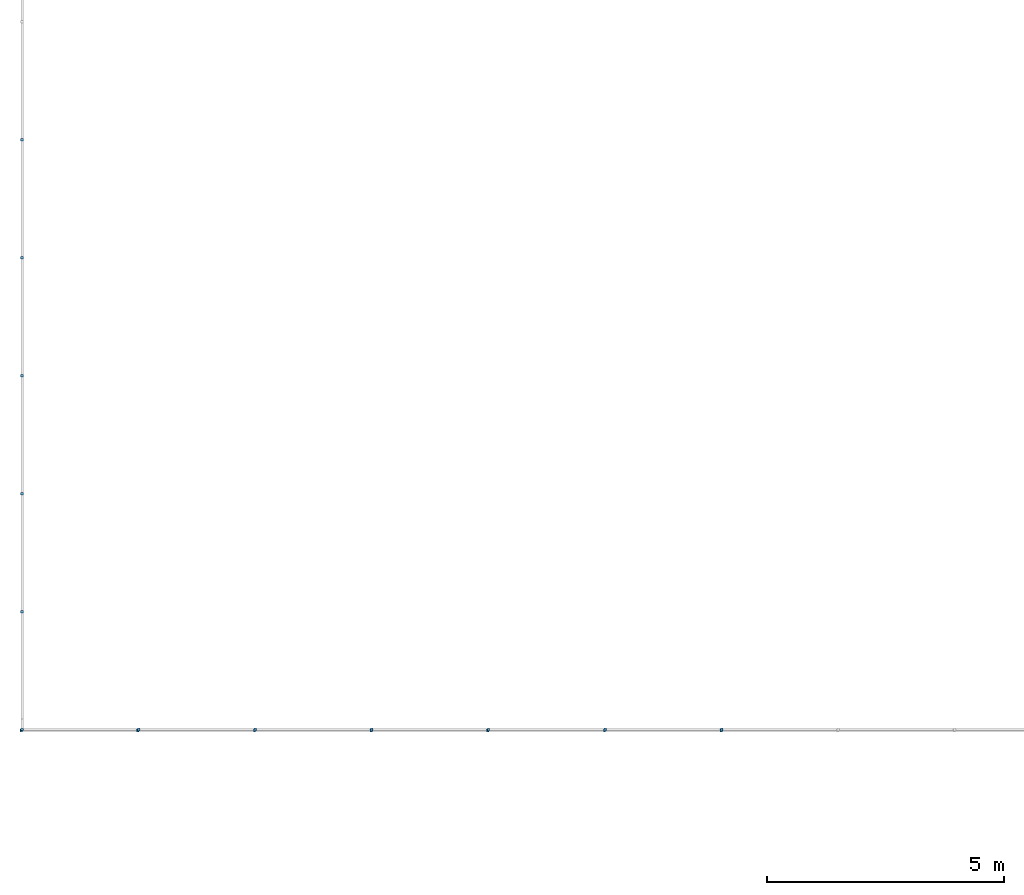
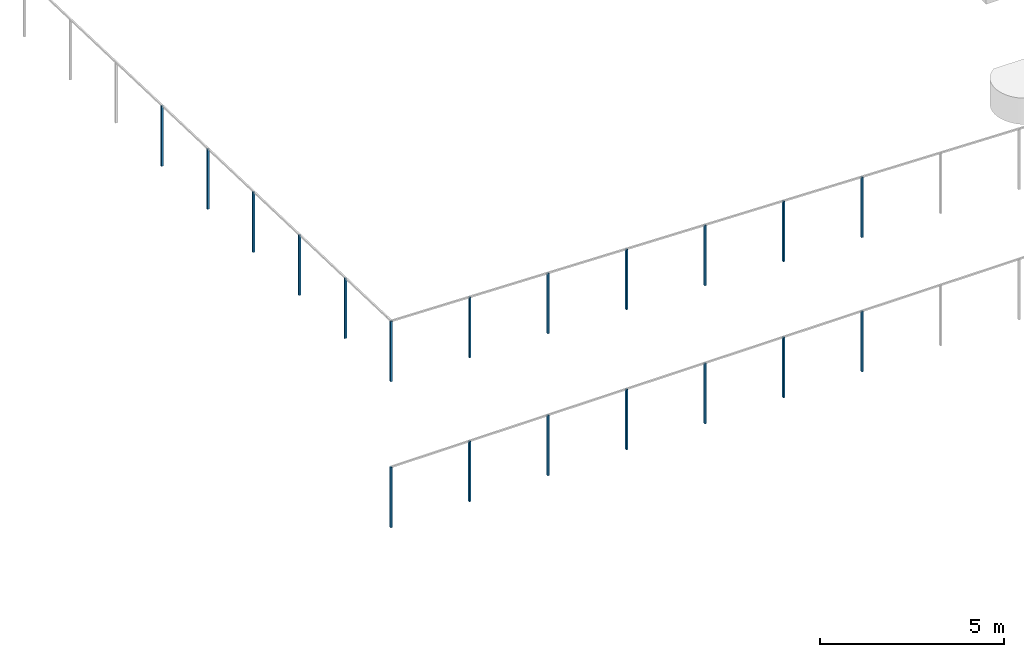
# One storey, part 45 of 91: 19 building element parts, 2 elements without a shape of their own.
"""IFC2X3 building model written with IfcOpenShell, lengths in metres."""

from ifc_helpers import new_model, entity, si_unit, converted_unit, derived_unit, money_unit, direction, frame, origin_with_axes, place, context, subcontext, project, spatial, faceted_brep, material, type_object, element, aggregate, save


model = new_model("IFC2X3")

# Units and contexts
model_context = context("Model", 3, precision=1e-05, world=origin_with_axes(), true_north=direction((0.0, 1.0)))
body_context = subcontext(model_context, "Body", "Model", "MODEL_VIEW")
ifc_project = project(units=[si_unit("LENGTHUNIT", "METRE"), si_unit("AREAUNIT", "SQUARE_METRE"), si_unit("VOLUMEUNIT", "CUBIC_METRE"), converted_unit("PLANEANGLEUNIT", "DEGREE", entity("IfcPlaneAngleMeasure", 0.0174532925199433), si_unit("PLANEANGLEUNIT", "RADIAN"), dimensions=[0, 0, 0, 0, 0, 0, 0]), money_unit("EUR"), converted_unit("TIMEUNIT", "Year", entity("IfcTimeMeasure", 31557600.0), si_unit("TIMEUNIT", "SECOND"), dimensions=[0, 0, 1, 0, 0, 0, 0]), si_unit("MASSUNIT", "GRAM", prefix="KILO"), si_unit("THERMODYNAMICTEMPERATUREUNIT", "DEGREE_CELSIUS"), si_unit("LUMINOUSINTENSITYUNIT", "LUMEN"), si_unit("ENERGYUNIT", "JOULE", prefix="MEGA"), derived_unit("THERMALCONDUCTANCEUNIT", [(si_unit("POWERUNIT", "WATT"), 1), (si_unit("LENGTHUNIT", "METRE"), -1), (si_unit("THERMODYNAMICTEMPERATUREUNIT", "KELVIN"), -1)]), derived_unit("SPECIFICHEATCAPACITYUNIT", [(si_unit("ENERGYUNIT", "JOULE"), 1), (si_unit("MASSUNIT", "GRAM", prefix="KILO"), -1), (si_unit("THERMODYNAMICTEMPERATUREUNIT", "KELVIN"), -1)]), derived_unit("MASSDENSITYUNIT", [(si_unit("MASSUNIT", "GRAM", prefix="KILO"), 1), (si_unit("VOLUMEUNIT", "CUBIC_METRE"), -1)])], contexts=[model_context])

# Site, building, storey
site_placement = place(None, origin_with_axes())
site = spatial("IfcSite", under=ifc_project, at=site_placement, Name="Site", CompositionType="ELEMENT")
building_placement = place(site_placement, origin_with_axes())
building = spatial("IfcBuilding", under=site, at=building_placement, Name="Bâtiment", CompositionType="ELEMENT")
storey_placement = place(building_placement, origin_with_axes())
storey = spatial("IfcBuildingStorey", under=building, at=storey_placement, Name="RDC", CompositionType="ELEMENT", Elevation=0.0)

# Proxy, building element parts
building_element_proxy_type = type_object("IfcBuildingElementProxyType", Name="Type de garde-corps", PredefinedType="NOTDEFINED")
proxy_1_placement = place(storey_placement, frame((79.63337255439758, 3.614023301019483, -2.37161404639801), z_axis=(0.0, 0.0, 1.0), x_axis=(1.0, 0.0, 0.0)))
proxy_1 = element("IfcBuildingElementProxy", 1, at=proxy_1_placement, inside=storey, type_object=building_element_proxy_type, Name="RAMPE-004")
ifc_material = material(Name="Acier Galva")
building_element_part_1_placement = place(proxy_1_placement, origin_with_axes())
building_element_part_1 = element("IfcBuildingElementPart", 2, at=building_element_part_1_placement, material=ifc_material, Name="Acier Galva", context=body_context, shape_type="Brep", body=[
    faceted_brep([(-79.72685112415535, -41.48792209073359, 4.827339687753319), (-79.6608511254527, -41.4879351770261, 4.826468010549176), (-79.66085112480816, -41.48792811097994, 6.826558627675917), (-79.72685191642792, -41.43792209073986, 4.826529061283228), (-79.66085191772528, -41.43793517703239, 4.825657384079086), (-79.66085191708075, -41.43792811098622, 6.826558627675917), (-79.72685112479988, -41.48792915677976, 6.826558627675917), (-79.72685191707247, -41.43792915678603, 6.826558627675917)], [[[0, 1, 2]], [[0, 3, 4, 1]], [[1, 4, 5, 2]], [[0, 2, 6]], [[3, 0, 6, 7]], [[4, 3, 7]], [[4, 7, 5]], [[6, 2, 5, 7]]]),
])
building_element_part_2_placement = place(proxy_1_placement, origin_with_axes())
building_element_part_2 = element("IfcBuildingElementPart", 3, at=building_element_part_2_placement, material=ifc_material, Name="Acier Galva", context=body_context, shape_type="Brep", body=[
    faceted_brep([(-79.72704850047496, -29.03163072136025, 4.423312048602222), (-79.66104850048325, -29.03162967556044, 4.423312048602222), (-79.66104850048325, -29.03162967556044, 6.423312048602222), (-79.72704850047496, -29.03163072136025, 6.423312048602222), (-79.72704929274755, -28.98163072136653, 4.421690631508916), (-79.66104929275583, -28.98162967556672, 4.421690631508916), (-79.66104929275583, -28.98162967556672, 6.421690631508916), (-79.72704929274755, -28.98163072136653, 6.421690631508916)], [[[0, 1, 2, 3]], [[0, 4, 5, 1]], [[1, 5, 6, 2]], [[3, 2, 6, 7]], [[4, 0, 3, 7]], [[5, 4, 7, 6]]]),
])
building_element_part_3_placement = place(proxy_1_placement, origin_with_axes())
building_element_part_3 = element("IfcBuildingElementPart", 4, at=building_element_part_3_placement, material=ifc_material, Name="Acier Galva", context=body_context, shape_type="Brep", body=[
    faceted_brep([(-79.72700902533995, -31.52289040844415, 4.504099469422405), (-79.66100902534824, -31.52288936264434, 4.504099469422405), (-79.66100902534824, -31.52288936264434, 6.504099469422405), (-79.72700902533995, -31.52289040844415, 6.504099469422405), (-79.72700981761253, -31.47289040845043, 4.502478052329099), (-79.66100981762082, -31.47288936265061, 4.502478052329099), (-79.66100981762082, -31.47288936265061, 6.502478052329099), (-79.72700981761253, -31.47289040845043, 6.502478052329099)], [[[0, 1, 2, 3]], [[0, 4, 5, 1]], [[1, 5, 6, 2]], [[3, 2, 6, 7]], [[4, 0, 3, 7]], [[5, 4, 7, 6]]]),
])
building_element_part_4_placement = place(proxy_1_placement, origin_with_axes())
building_element_part_4 = element("IfcBuildingElementPart", 5, at=building_element_part_4_placement, material=ifc_material, Name="Acier Galva", context=body_context, shape_type="Brep", body=[
    faceted_brep([(-79.72696955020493, -34.01415009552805, 4.58488689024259), (-79.66096955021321, -34.01414904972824, 4.58488689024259), (-79.66096955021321, -34.01414904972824, 6.58488689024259), (-79.72696955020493, -34.01415009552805, 6.58488689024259), (-79.72697034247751, -33.96415009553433, 4.583265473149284), (-79.6609703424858, -33.96414904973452, 4.583265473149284), (-79.6609703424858, -33.96414904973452, 6.583265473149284), (-79.72697034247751, -33.96415009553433, 6.583265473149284)], [[[0, 1, 2, 3]], [[0, 4, 5, 1]], [[1, 5, 6, 2]], [[3, 2, 6, 7]], [[4, 0, 3, 7]], [[5, 4, 7, 6]]]),
])
building_element_part_5_placement = place(proxy_1_placement, origin_with_axes())
building_element_part_5 = element("IfcBuildingElementPart", 6, at=building_element_part_5_placement, material=ifc_material, Name="Acier Galva", context=body_context, shape_type="Brep", body=[
    faceted_brep([(-79.72693007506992, -36.50540978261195, 4.665674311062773), (-79.6609300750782, -36.50540873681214, 4.665674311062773), (-79.6609300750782, -36.50540873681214, 6.665674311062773), (-79.72693007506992, -36.50540978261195, 6.665674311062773), (-79.7269308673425, -36.45540978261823, 4.664052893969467), (-79.66093086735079, -36.45540873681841, 4.664052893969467), (-79.66093086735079, -36.45540873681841, 6.664052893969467), (-79.7269308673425, -36.45540978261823, 6.664052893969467)], [[[0, 1, 2, 3]], [[0, 4, 5, 1]], [[1, 5, 6, 2]], [[3, 2, 6, 7]], [[4, 0, 3, 7]], [[5, 4, 7, 6]]]),
])
building_element_part_6_placement = place(proxy_1_placement, origin_with_axes())
building_element_part_6 = element("IfcBuildingElementPart", 7, at=building_element_part_6_placement, material=ifc_material, Name="Acier Galva", context=body_context, shape_type="Brep", body=[
    faceted_brep([(-79.72689059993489, -38.99666946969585, 4.746461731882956), (-79.66089059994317, -38.99666842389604, 4.746461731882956), (-79.66089059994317, -38.99666842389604, 6.746461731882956), (-79.72689059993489, -38.99666946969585, 6.746461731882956), (-79.72689139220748, -38.94666946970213, 4.74484031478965), (-79.66089139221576, -38.94666842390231, 4.74484031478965), (-79.66089139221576, -38.94666842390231, 6.74484031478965), (-79.72689139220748, -38.94666946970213, 6.74484031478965)], [[[0, 1, 2, 3]], [[0, 4, 5, 1]], [[1, 5, 6, 2]], [[3, 2, 6, 7]], [[4, 0, 3, 7]], [[5, 4, 7, 6]]]),
])
building_element_part_7_placement = place(proxy_1_placement, origin_with_axes())
building_element_part_7 = element("IfcBuildingElementPart", 8, at=building_element_part_7_placement, material=ifc_material, Name="Acier Galva", context=body_context, shape_type="Brep", body=[
    faceted_brep([(-74.74293280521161, -41.495928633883, 4.695759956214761), (-74.74293280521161, -41.42992863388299, 4.695759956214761), (-74.74293280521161, -41.42992863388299, 6.695759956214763), (-74.74293280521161, -41.495928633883, 6.695759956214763), (-74.7929328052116, -41.495928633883, 4.697080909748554), (-74.7929328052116, -41.42992863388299, 4.697080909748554), (-74.7929328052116, -41.42992863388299, 6.697080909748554), (-74.7929328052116, -41.495928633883, 6.697080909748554)], [[[0, 1, 2, 3]], [[0, 4, 5, 1]], [[1, 5, 6, 2]], [[3, 2, 6, 7]], [[4, 0, 3, 7]], [[5, 4, 7, 6]]]),
])
building_element_part_8_placement = place(proxy_1_placement, origin_with_axes())
building_element_part_8 = element("IfcBuildingElementPart", 9, at=building_element_part_8_placement, material=ifc_material, Name="Acier Galva", context=body_context, shape_type="Brep", body=[
    faceted_brep([(-72.27997344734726, -41.495928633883, 4.630690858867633), (-72.27997344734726, -41.42992863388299, 4.630690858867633), (-72.27997344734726, -41.42992863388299, 6.630690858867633), (-72.27997344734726, -41.495928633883, 6.630690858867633), (-72.32997344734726, -41.495928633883, 4.632011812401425), (-72.32997344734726, -41.42992863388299, 4.632011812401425), (-72.32997344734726, -41.42992863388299, 6.632011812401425), (-72.32997344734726, -41.495928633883, 6.632011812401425)], [[[0, 1, 2, 3]], [[0, 4, 5, 1]], [[1, 5, 6, 2]], [[3, 2, 6, 7]], [[4, 0, 3, 7]], [[5, 4, 7, 6]]]),
])
building_element_part_9_placement = place(proxy_1_placement, origin_with_axes())
building_element_part_9 = element("IfcBuildingElementPart", 10, at=building_element_part_9_placement, material=ifc_material, Name="Acier Galva", context=body_context, shape_type="Brep", body=[
    faceted_brep([(-69.81701408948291, -41.495928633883, 4.565621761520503), (-69.81701408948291, -41.42992863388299, 4.565621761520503), (-69.81701408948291, -41.42992863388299, 6.565621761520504), (-69.81701408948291, -41.495928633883, 6.565621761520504), (-69.86701408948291, -41.495928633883, 4.566942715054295), (-69.86701408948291, -41.42992863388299, 4.566942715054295), (-69.86701408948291, -41.42992863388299, 6.566942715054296), (-69.86701408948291, -41.495928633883, 6.566942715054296)], [[[0, 1, 2, 3]], [[0, 4, 5, 1]], [[1, 5, 6, 2]], [[3, 2, 6, 7]], [[4, 0, 3, 7]], [[5, 4, 7, 6]]]),
])
building_element_part_10_placement = place(proxy_1_placement, origin_with_axes())
building_element_part_10 = element("IfcBuildingElementPart", 11, at=building_element_part_10_placement, material=ifc_material, Name="Acier Galva", context=body_context, shape_type="Brep", body=[
    faceted_brep([(-77.20589216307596, -41.495928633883, 4.760829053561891), (-77.20589216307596, -41.42992863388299, 4.760829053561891), (-77.20589216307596, -41.42992863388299, 6.760829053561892), (-77.20589216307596, -41.495928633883, 6.760829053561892), (-77.25589216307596, -41.495928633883, 4.762150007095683), (-77.25589216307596, -41.42992863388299, 4.762150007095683), (-77.25589216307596, -41.42992863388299, 6.762150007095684), (-77.25589216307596, -41.495928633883, 6.762150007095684)], [[[0, 1, 2, 3]], [[0, 4, 5, 1]], [[1, 5, 6, 2]], [[3, 2, 6, 7]], [[4, 0, 3, 7]], [[5, 4, 7, 6]]]),
])
building_element_part_11_placement = place(proxy_1_placement, origin_with_axes())
building_element_part_11 = element("IfcBuildingElementPart", 12, at=building_element_part_11_placement, material=ifc_material, Name="Acier Galva", context=body_context, shape_type="Brep", body=[
    faceted_brep([(-67.35405473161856, -41.495928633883, 4.500552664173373), (-67.35405473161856, -41.42992863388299, 4.500552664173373), (-67.35405473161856, -41.42992863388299, 6.500552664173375), (-67.35405473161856, -41.495928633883, 6.500552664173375), (-67.40405473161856, -41.495928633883, 4.501873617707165), (-67.40405473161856, -41.42992863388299, 4.501873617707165), (-67.40405473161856, -41.42992863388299, 6.501873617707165), (-67.40405473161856, -41.495928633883, 6.501873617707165)], [[[0, 1, 2, 3]], [[0, 4, 5, 1]], [[1, 5, 6, 2]], [[3, 2, 6, 7]], [[4, 0, 3, 7]], [[5, 4, 7, 6]]]),
])
building_element_part_12_placement = place(proxy_1_placement, origin_with_axes())
building_element_part_12 = element("IfcBuildingElementPart", 13, at=building_element_part_12_placement, material=ifc_material, Name="Acier Galva", context=body_context, shape_type="Brep", body=[
    faceted_brep([(-64.89109537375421, -41.495928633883, 4.435483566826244), (-64.89109537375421, -41.42992863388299, 4.435483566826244), (-64.89109537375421, -41.42992863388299, 6.435483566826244), (-64.89109537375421, -41.495928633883, 6.435483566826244), (-64.94109537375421, -41.495928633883, 4.436804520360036), (-64.94109537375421, -41.42992863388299, 4.436804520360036), (-64.94109537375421, -41.42992863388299, 6.436804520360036), (-64.94109537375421, -41.495928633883, 6.436804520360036)], [[[0, 1, 2, 3]], [[0, 4, 5, 1]], [[1, 5, 6, 2]], [[3, 2, 6, 7]], [[4, 0, 3, 7]], [[5, 4, 7, 6]]]),
])
aggregate(proxy_1, [building_element_part_1, building_element_part_2, building_element_part_3, building_element_part_4, building_element_part_5, building_element_part_6, building_element_part_7, building_element_part_8, building_element_part_9, building_element_part_10, building_element_part_11, building_element_part_12])

proxy_2_placement = place(storey_placement, frame((54.13280691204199, -37.84890533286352, -2.37161404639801), z_axis=(0.0, 0.0, 1.0), x_axis=(1.0, 0.0, 0.0)))
proxy_2 = element("IfcBuildingElementProxy", 14, at=proxy_2_placement, inside=storey, type_object=building_element_proxy_type, Name="RAMPE-004")
building_element_part_13_placement = place(proxy_2_placement, origin_with_axes())
building_element_part_13 = element("IfcBuildingElementPart", 15, at=building_element_part_13_placement, material=ifc_material, Name="Acier Galva", context=body_context, shape_type="Brep", body=[
    faceted_brep([(-54.2382855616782, 0.01299999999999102, 0.0), (-54.2382855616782, -0.05300000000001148, 0.0), (-54.2382855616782, -0.05300000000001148, 2.0), (-54.2382855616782, 0.01299999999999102, 2.0), (-54.18828556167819, 0.01299999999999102, 0.0), (-54.18828556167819, -0.05300000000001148, 0.0), (-54.18828556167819, -0.05300000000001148, 2.0), (-54.18828556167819, 0.01299999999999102, 2.0)], [[[0, 1, 2, 3]], [[0, 4, 5, 1]], [[1, 5, 6, 2]], [[3, 2, 6, 7]], [[4, 0, 3, 7]], [[5, 4, 7, 6]]]),
])
building_element_part_14_placement = place(proxy_2_placement, origin_with_axes())
building_element_part_14 = element("IfcBuildingElementPart", 16, at=building_element_part_14_placement, material=ifc_material, Name="Acier Galva", context=body_context, shape_type="Brep", body=[
    faceted_brep([(-39.45284404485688, 0.01299999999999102, 0.0), (-39.45284404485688, -0.05300000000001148, 0.0), (-39.45284404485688, -0.05300000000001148, 2.0), (-39.45284404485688, 0.01299999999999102, 2.0), (-39.40284404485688, 0.01299999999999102, 0.0), (-39.40284404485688, -0.05300000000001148, 0.0), (-39.40284404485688, -0.05300000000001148, 2.0), (-39.40284404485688, 0.01299999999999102, 2.0)], [[[0, 1, 2, 3]], [[0, 4, 5, 1]], [[1, 5, 6, 2]], [[3, 2, 6, 7]], [[4, 0, 3, 7]], [[5, 4, 7, 6]]]),
])
building_element_part_15_placement = place(proxy_2_placement, origin_with_axes())
building_element_part_15 = element("IfcBuildingElementPart", 17, at=building_element_part_15_placement, material=ifc_material, Name="Acier Galva", context=body_context, shape_type="Brep", body=[
    faceted_brep([(-41.91708429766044, 0.01299999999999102, 0.0), (-41.91708429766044, -0.05300000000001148, 0.0), (-41.91708429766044, -0.05300000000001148, 2.0), (-41.91708429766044, 0.01299999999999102, 2.0), (-41.86708429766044, 0.01299999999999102, 0.0), (-41.86708429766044, -0.05300000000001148, 0.0), (-41.86708429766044, -0.05300000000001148, 2.0), (-41.86708429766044, 0.01299999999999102, 2.0)], [[[0, 1, 2, 3]], [[0, 4, 5, 1]], [[1, 5, 6, 2]], [[3, 2, 6, 7]], [[4, 0, 3, 7]], [[5, 4, 7, 6]]]),
])
building_element_part_16_placement = place(proxy_2_placement, origin_with_axes())
building_element_part_16 = element("IfcBuildingElementPart", 18, at=building_element_part_16_placement, material=ifc_material, Name="Acier Galva", context=body_context, shape_type="Brep", body=[
    faceted_brep([(-44.38132455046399, 0.01299999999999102, 0.0), (-44.38132455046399, -0.05300000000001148, 0.0), (-44.38132455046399, -0.05300000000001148, 2.0), (-44.38132455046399, 0.01299999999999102, 2.0), (-44.331324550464, 0.01299999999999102, 0.0), (-44.331324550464, -0.05300000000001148, 0.0), (-44.331324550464, -0.05300000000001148, 2.0), (-44.331324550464, 0.01299999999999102, 2.0)], [[[0, 1, 2, 3]], [[0, 4, 5, 1]], [[1, 5, 6, 2]], [[3, 2, 6, 7]], [[4, 0, 3, 7]], [[5, 4, 7, 6]]]),
])
building_element_part_17_placement = place(proxy_2_placement, origin_with_axes())
building_element_part_17 = element("IfcBuildingElementPart", 19, at=building_element_part_17_placement, material=ifc_material, Name="Acier Galva", context=body_context, shape_type="Brep", body=[
    faceted_brep([(-46.84556480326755, 0.01299999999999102, 0.0), (-46.84556480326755, -0.05300000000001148, 0.0), (-46.84556480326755, -0.05300000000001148, 2.0), (-46.84556480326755, 0.01299999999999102, 2.0), (-46.79556480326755, 0.01299999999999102, 0.0), (-46.79556480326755, -0.05300000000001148, 0.0), (-46.79556480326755, -0.05300000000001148, 2.0), (-46.79556480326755, 0.01299999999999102, 2.0)], [[[0, 1, 2, 3]], [[0, 4, 5, 1]], [[1, 5, 6, 2]], [[3, 2, 6, 7]], [[4, 0, 3, 7]], [[5, 4, 7, 6]]]),
])
building_element_part_18_placement = place(proxy_2_placement, origin_with_axes())
building_element_part_18 = element("IfcBuildingElementPart", 20, at=building_element_part_18_placement, material=ifc_material, Name="Acier Galva", context=body_context, shape_type="Brep", body=[
    faceted_brep([(-51.77404530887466, 0.01299999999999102, 0.0), (-51.77404530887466, -0.05300000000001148, 0.0), (-51.77404530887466, -0.05300000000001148, 2.0), (-51.77404530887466, 0.01299999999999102, 2.0), (-51.72404530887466, 0.01299999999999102, 0.0), (-51.72404530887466, -0.05300000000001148, 0.0), (-51.72404530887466, -0.05300000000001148, 2.0), (-51.72404530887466, 0.01299999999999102, 2.0)], [[[0, 1, 2, 3]], [[0, 4, 5, 1]], [[1, 5, 6, 2]], [[3, 2, 6, 7]], [[4, 0, 3, 7]], [[5, 4, 7, 6]]]),
])
building_element_part_19_placement = place(proxy_2_placement, origin_with_axes())
building_element_part_19 = element("IfcBuildingElementPart", 21, at=building_element_part_19_placement, material=ifc_material, Name="Acier Galva", context=body_context, shape_type="Brep", body=[
    faceted_brep([(-49.30980505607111, 0.01299999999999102, 0.0), (-49.30980505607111, -0.05300000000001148, 0.0), (-49.30980505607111, -0.05300000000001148, 2.0), (-49.30980505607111, 0.01299999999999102, 2.0), (-49.25980505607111, 0.01299999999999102, 0.0), (-49.25980505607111, -0.05300000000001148, 0.0), (-49.25980505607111, -0.05300000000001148, 2.0), (-49.25980505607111, 0.01299999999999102, 2.0)], [[[0, 1, 2, 3]], [[0, 4, 5, 1]], [[1, 5, 6, 2]], [[3, 2, 6, 7]], [[4, 0, 3, 7]], [[5, 4, 7, 6]]]),
])
aggregate(proxy_2, [building_element_part_13, building_element_part_14, building_element_part_15, building_element_part_16, building_element_part_17, building_element_part_18, building_element_part_19])

save(model, "model.ifc")
